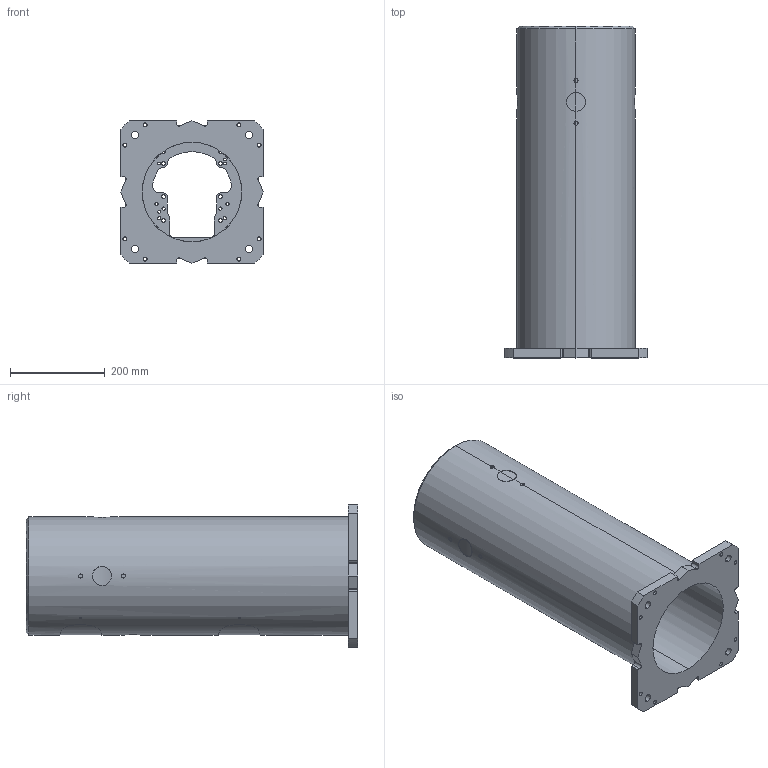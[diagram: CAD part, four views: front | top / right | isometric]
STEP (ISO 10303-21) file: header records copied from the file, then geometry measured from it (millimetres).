
FILE_DESCRIPTION (( 'STEP AP214' ), '1' );
FILE_NAME ('A-700.STEP', '2025-09-19T11:30:40', ( '' ), ( '' ), 'SwSTEP 2.0', 'SolidWorks 2022', '' );
FILE_SCHEMA (( 'AUTOMOTIVE_DESIGN' ));
Length unit declared in the file: millimetre
Products named in the file (1): A-700
Bounding box: 300 x 700 x 300 mm (x, y, z)
Volume: 11058709.2 mm3; surface area: 1166447.2 mm2
Topology: 1 solids, 1 shells, 236 faces, 672 edges, 442 vertices
Faces by surface type: cylinder 167, plane 43, bspline 24, cone 2
Entity records: 15830 total; most frequent: CARTESIAN_POINT 8323, ORIENTED_EDGE 1344, DIRECTION 1210, EDGE_CURVE 672, AXIS2_PLACEMENT_3D 479, VERTEX_POINT 442, EDGE_LOOP 314, CIRCLE 266
